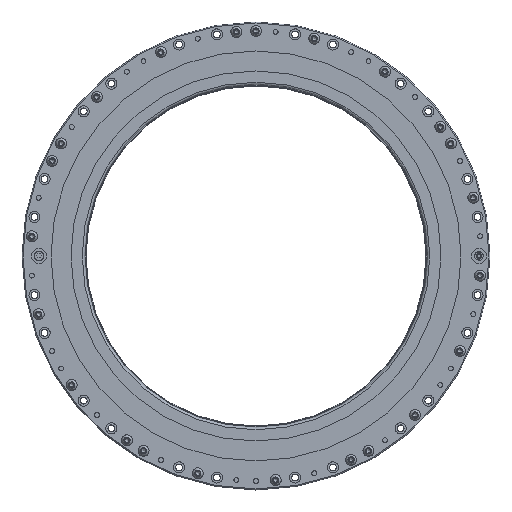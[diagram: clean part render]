
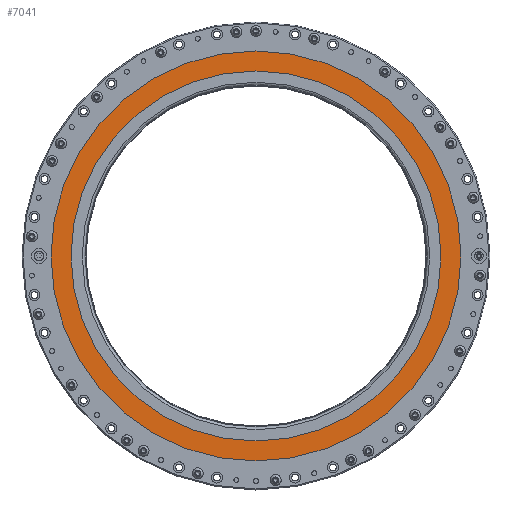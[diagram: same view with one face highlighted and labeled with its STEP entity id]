
A CAD part, top view. The second image highlights one B-rep face of the part: STEP entity #7041.
In plain terms, the highlighted planar face has unit normal (0, 0, 1) as drawn and (0, 0, -1) by its records, which use the part's own axes.
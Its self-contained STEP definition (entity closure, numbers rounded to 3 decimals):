
#489=PLANE('',#7585);
#728=CIRCLE('',#7586,185.);
#729=CIRCLE('',#7587,205.);
#1351=ORIENTED_EDGE('',*,*,#2316,.T.);
#1352=ORIENTED_EDGE('',*,*,#2317,.F.);
#2316=EDGE_CURVE('',#2861,#2861,#728,.T.);
#2317=EDGE_CURVE('',#2862,#2862,#729,.T.);
#2861=VERTEX_POINT('',#11023);
#2862=VERTEX_POINT('',#11025);
#3631=EDGE_LOOP('',(#1351));
#3632=EDGE_LOOP('',(#1352));
#4338=FACE_BOUND('',#3631,.T.);
#4339=FACE_BOUND('',#3632,.T.);
#7041=ADVANCED_FACE('',(#4338,#4339),#489,.F.);
#7585=AXIS2_PLACEMENT_3D('',#11021,#8686,#8687);
#7586=AXIS2_PLACEMENT_3D('',#11022,#8688,#8689);
#7587=AXIS2_PLACEMENT_3D('',#11024,#8690,#8691);
#8686=DIRECTION('',(0.,0.,1.));
#8687=DIRECTION('',(1.,0.,0.));
#8688=DIRECTION('',(0.,0.,1.));
#8689=DIRECTION('',(1.,0.,0.));
#8690=DIRECTION('',(0.,0.,1.));
#8691=DIRECTION('',(1.,0.,0.));
#11021=CARTESIAN_POINT('',(185.,0.,-10.5));
#11022=CARTESIAN_POINT('',(0.,0.,-10.5));
#11023=CARTESIAN_POINT('',(185.,0.,-10.5));
#11024=CARTESIAN_POINT('',(0.,0.,-10.5));
#11025=CARTESIAN_POINT('',(205.,0.,-10.5));
